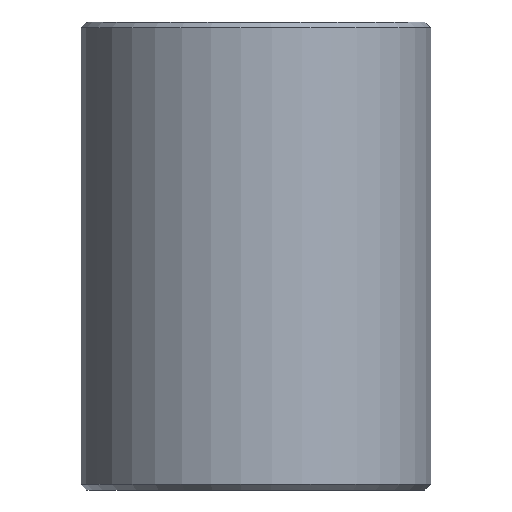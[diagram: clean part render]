
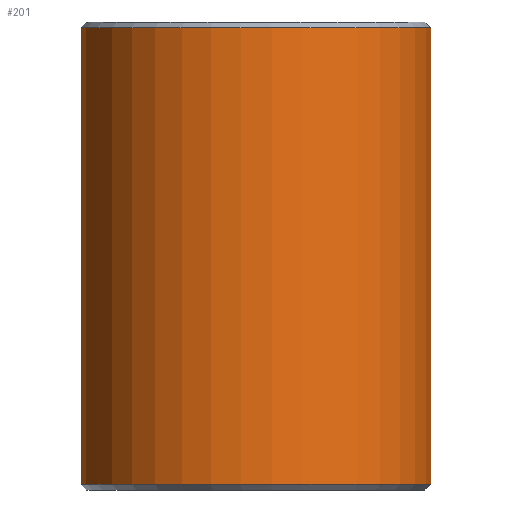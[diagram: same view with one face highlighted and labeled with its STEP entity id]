
A CAD part, left-side view. The second image highlights one B-rep face of the part: STEP entity #201.
In plain terms, the highlighted cylindrical face has radius 6 mm (diameter 12 mm), a partial arc.
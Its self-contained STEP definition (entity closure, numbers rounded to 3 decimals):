
#6 = ORIENTED_EDGE ( 'NONE', *, *, #295, .T. ) ;
#14 = EDGE_CURVE ( 'NONE', #70, #188, #352, .T. ) ;
#35 = CIRCLE ( 'NONE', #108, 6. ) ;
#53 = CARTESIAN_POINT ( 'NONE',  ( -0.5, -5.979, 15.8 ) ) ;
#65 = VERTEX_POINT ( 'NONE', #277 ) ;
#70 = VERTEX_POINT ( 'NONE', #53 ) ;
#72 = DIRECTION ( 'NONE',  ( 0., 0., -1. ) ) ;
#82 = FACE_OUTER_BOUND ( 'NONE', #455, .T. ) ;
#88 = CARTESIAN_POINT ( 'NONE',  ( -0.5, -5.979, 0.2 ) ) ;
#94 = CARTESIAN_POINT ( 'NONE',  ( 0., 0., 0.2 ) ) ;
#98 = EDGE_CURVE ( 'NONE', #70, #459, #388, .T. ) ;
#108 = AXIS2_PLACEMENT_3D ( 'NONE', #94, #434, #307 ) ;
#118 = VECTOR ( 'NONE', #343, 1000. ) ;
#150 = AXIS2_PLACEMENT_3D ( 'NONE', #192, #339, #410 ) ;
#187 = AXIS2_PLACEMENT_3D ( 'NONE', #276, #241, #451 ) ;
#188 = VERTEX_POINT ( 'NONE', #88 ) ;
#192 = CARTESIAN_POINT ( 'NONE',  ( 0., 0., 16. ) ) ;
#194 = ORIENTED_EDGE ( 'NONE', *, *, #14, .F. ) ;
#201 = ADVANCED_FACE ( 'NONE', ( #82 ), #398, .T. ) ;
#241 = DIRECTION ( 'NONE',  ( 0., 0., -1. ) ) ;
#276 = CARTESIAN_POINT ( 'NONE',  ( 0., 0., 15.8 ) ) ;
#277 = CARTESIAN_POINT ( 'NONE',  ( 0.5, -5.979, 0.2 ) ) ;
#293 = VECTOR ( 'NONE', #72, 1000. ) ;
#295 = EDGE_CURVE ( 'NONE', #65, #188, #35, .T. ) ;
#297 = ORIENTED_EDGE ( 'NONE', *, *, #98, .T. ) ;
#307 = DIRECTION ( 'NONE',  ( 1., 0., 0. ) ) ;
#339 = DIRECTION ( 'NONE',  ( 0., 0., -1. ) ) ;
#343 = DIRECTION ( 'NONE',  ( 0., 0., -1. ) ) ;
#352 = LINE ( 'NONE', #392, #293 ) ;
#356 = EDGE_CURVE ( 'NONE', #459, #65, #391, .T. ) ;
#388 = CIRCLE ( 'NONE', #187, 6. ) ;
#391 = LINE ( 'NONE', #406, #118 ) ;
#392 = CARTESIAN_POINT ( 'NONE',  ( -0.5, -5.979, 16. ) ) ;
#398 = CYLINDRICAL_SURFACE ( 'NONE', #150, 6. ) ;
#406 = CARTESIAN_POINT ( 'NONE',  ( 0.5, -5.979, 16. ) ) ;
#407 = CARTESIAN_POINT ( 'NONE',  ( 0.5, -5.979, 15.8 ) ) ;
#408 = ORIENTED_EDGE ( 'NONE', *, *, #356, .T. ) ;
#410 = DIRECTION ( 'NONE',  ( -1., 0., 0. ) ) ;
#434 = DIRECTION ( 'NONE',  ( 0., 0., 1. ) ) ;
#451 = DIRECTION ( 'NONE',  ( 1., 0., 0. ) ) ;
#455 = EDGE_LOOP ( 'NONE', ( #408, #6, #194, #297 ) ) ;
#459 = VERTEX_POINT ( 'NONE', #407 ) ;
